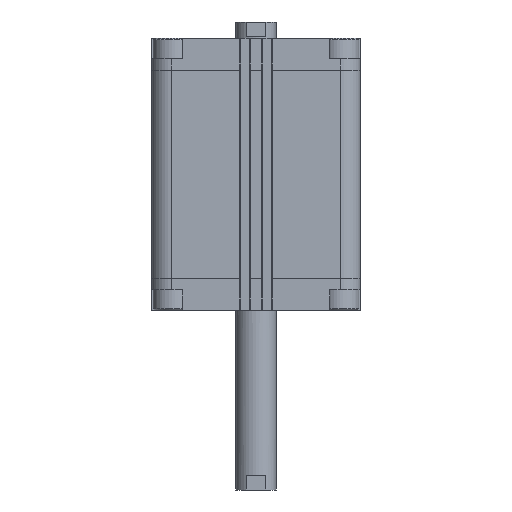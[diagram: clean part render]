
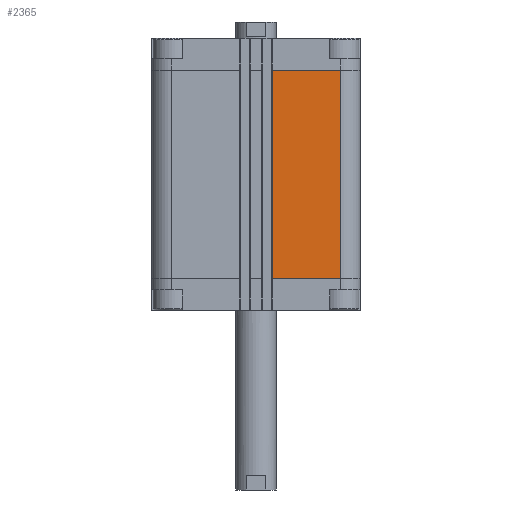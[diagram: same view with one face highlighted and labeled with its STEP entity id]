
A CAD part, front view. The second image highlights one B-rep face of the part: STEP entity #2365.
In plain terms, the highlighted planar face has unit normal (0, -1, 0).
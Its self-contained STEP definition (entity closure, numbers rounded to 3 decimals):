
#330 = DIRECTION ( 'NONE',  ( 1., 0., 0. ) ) ;
#445 = LINE ( 'NONE', #11852, #5995 ) ;
#815 = CARTESIAN_POINT ( 'NONE',  ( 9.95, -64., -19.5 ) ) ;
#1385 = VECTOR ( 'NONE', #9022, 1000. ) ;
#1887 = CARTESIAN_POINT ( 'NONE',  ( 9.95, -64., -147. ) ) ;
#2154 = EDGE_CURVE ( 'NONE', #21197, #2232, #445, .T. ) ;
#2232 = VERTEX_POINT ( 'NONE', #3235 ) ;
#2365 = ADVANCED_FACE ( 'NONE', ( #7524 ), #17303, .T. ) ;
#3235 = CARTESIAN_POINT ( 'NONE',  ( 51.5, -64., -147. ) ) ;
#5218 = EDGE_LOOP ( 'NONE', ( #18020, #12537, #7426, #6132 ) ) ;
#5603 = DIRECTION ( 'NONE',  ( -1., 0., 0. ) ) ;
#5995 = VECTOR ( 'NONE', #330, 1000. ) ;
#6132 = ORIENTED_EDGE ( 'NONE', *, *, #13931, .T. ) ;
#6215 = LINE ( 'NONE', #20487, #1385 ) ;
#6562 = VERTEX_POINT ( 'NONE', #21136 ) ;
#7421 = DIRECTION ( 'NONE',  ( 0., -1., 0. ) ) ;
#7426 = ORIENTED_EDGE ( 'NONE', *, *, #2154, .T. ) ;
#7524 = FACE_OUTER_BOUND ( 'NONE', #5218, .T. ) ;
#7968 = AXIS2_PLACEMENT_3D ( 'NONE', #10456, #7421, #5603 ) ;
#8557 = LINE ( 'NONE', #1887, #12967 ) ;
#9022 = DIRECTION ( 'NONE',  ( 0., 0., 1. ) ) ;
#10456 = CARTESIAN_POINT ( 'NONE',  ( 9.95, -64., -147. ) ) ;
#10510 = LINE ( 'NONE', #815, #20280 ) ;
#11237 = CARTESIAN_POINT ( 'NONE',  ( 9.95, -64., -147. ) ) ;
#11852 = CARTESIAN_POINT ( 'NONE',  ( 9.95, -64., -147. ) ) ;
#12120 = DIRECTION ( 'NONE',  ( 1., 0., 0. ) ) ;
#12205 = CARTESIAN_POINT ( 'NONE',  ( 51.5, -64., -19.5 ) ) ;
#12537 = ORIENTED_EDGE ( 'NONE', *, *, #19719, .F. ) ;
#12609 = VERTEX_POINT ( 'NONE', #12205 ) ;
#12967 = VECTOR ( 'NONE', #14790, 1000. ) ;
#13931 = EDGE_CURVE ( 'NONE', #2232, #12609, #6215, .T. ) ;
#14790 = DIRECTION ( 'NONE',  ( 0., 0., 1. ) ) ;
#17303 = PLANE ( 'NONE',  #7968 ) ;
#18002 = EDGE_CURVE ( 'NONE', #6562, #12609, #10510, .T. ) ;
#18020 = ORIENTED_EDGE ( 'NONE', *, *, #18002, .F. ) ;
#19719 = EDGE_CURVE ( 'NONE', #21197, #6562, #8557, .T. ) ;
#20280 = VECTOR ( 'NONE', #12120, 1000. ) ;
#20487 = CARTESIAN_POINT ( 'NONE',  ( 51.5, -64., -147. ) ) ;
#21136 = CARTESIAN_POINT ( 'NONE',  ( 9.95, -64., -19.5 ) ) ;
#21197 = VERTEX_POINT ( 'NONE', #11237 ) ;
